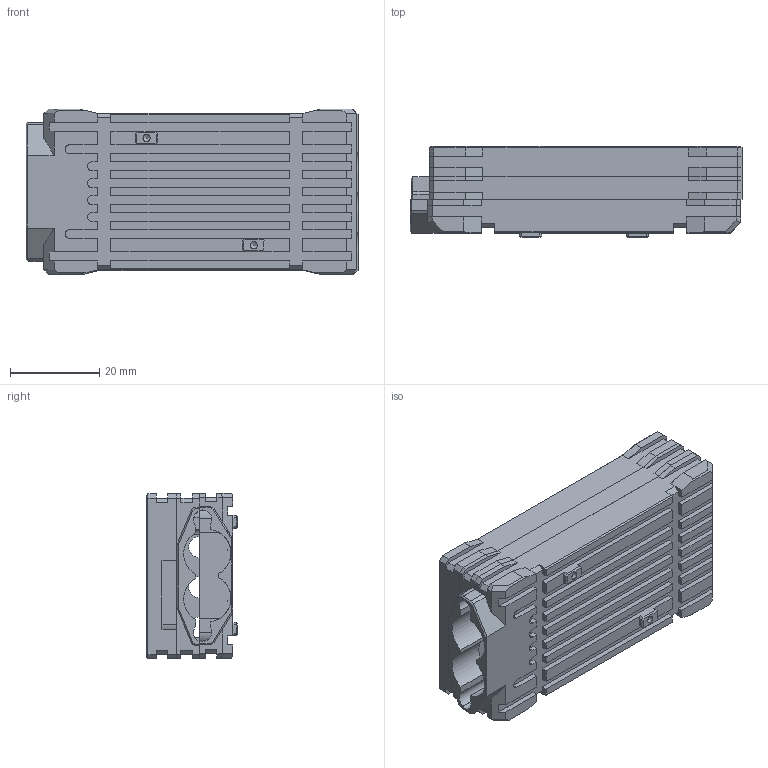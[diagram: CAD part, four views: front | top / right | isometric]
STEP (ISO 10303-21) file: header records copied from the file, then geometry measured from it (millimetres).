
FILE_DESCRIPTION(/* description */ (''),/* implementation_level */ '2;1');
FILE_NAME(/* name */ 'Saphir 125 V2-ANL.step',/* time_stamp */ '2025-06-02T15:13:00+02:00',/* author */ (''),/* organization */ (''),/* preprocessor_version */ 'ST-DEVELOPER v20.1',/* originating_system */ 'Autodesk Translation Framework v14.4.0.0',/* authorisation */ '');
FILE_SCHEMA (('AUTOMOTIVE_DESIGN { 1 0 10303 214 3 1 1 }'));
Length unit declared in the file: millimetre
Products named in the file (4): Saphir 125 V2-ANL; Oberteil; Unterteil; Zwischenteil
Assembly tree (3 placements, depth 2):
  Saphir 125 V2-ANL
    Oberteil
    Unterteil
    Zwischenteil
Bounding box: 74.33 x 20.34 x 37.15 mm (x, y, z)
Volume: 35322.3 mm3; surface area: 19067.5 mm2
Topology: 3 solids, 4 shells, 491 faces, 1379 edges, 895 vertices
Faces by surface type: plane 416, cylinder 56, cone 19
Full cylindrical faces by diameter (mm): 1.623 x6, 2 x8
Entity records: 15720 total; most frequent: CARTESIAN_POINT 2822, ORIENTED_EDGE 2744, DIRECTION 2493, EDGE_CURVE 1372, LINE 1225, VECTOR 1225, VERTEX_POINT 895, AXIS2_PLACEMENT_3D 634
